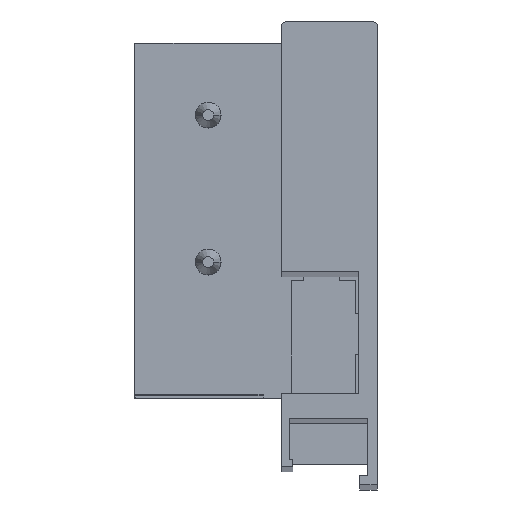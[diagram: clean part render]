
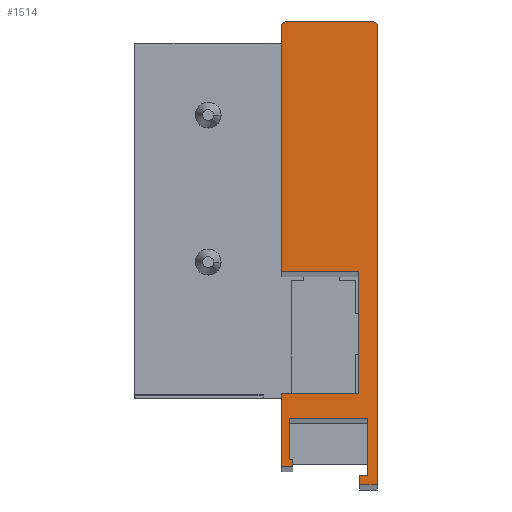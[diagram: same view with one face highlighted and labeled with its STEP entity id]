
A CAD part, top view. The second image highlights one B-rep face of the part: STEP entity #1514.
In plain terms, the highlighted planar face has unit normal (0, 0, 1).
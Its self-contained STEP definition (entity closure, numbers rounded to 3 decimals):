
#23 = VERTEX_POINT ( 'NONE', #1108 ) ;
#31 = EDGE_CURVE ( 'NONE', #1757, #1791, #373, .T. ) ;
#53 = CARTESIAN_POINT ( 'NONE',  ( 12.5, 33.5, 0. ) ) ;
#54 = EDGE_CURVE ( 'NONE', #1575, #315, #1630, .T. ) ;
#68 = LINE ( 'NONE', #800, #468 ) ;
#95 = LINE ( 'NONE', #453, #1387 ) ;
#109 = EDGE_CURVE ( 'NONE', #1692, #1575, #2073, .T. ) ;
#113 = VERTEX_POINT ( 'NONE', #1053 ) ;
#119 = CARTESIAN_POINT ( 'NONE',  ( 0.5, 33.5, 0. ) ) ;
#142 = EDGE_CURVE ( 'NONE', #23, #1094, #214, .T. ) ;
#143 = CARTESIAN_POINT ( 'NONE',  ( 12.5, 34., 0. ) ) ;
#201 = CARTESIAN_POINT ( 'NONE',  ( 10.5, 0., 0. ) ) ;
#203 = VERTEX_POINT ( 'NONE', #1418 ) ;
#209 = DIRECTION ( 'NONE',  ( 1., 0., 0. ) ) ;
#214 = LINE ( 'NONE', #1055, #1117 ) ;
#220 = DIRECTION ( 'NONE',  ( 0., -1., 0. ) ) ;
#249 = VERTEX_POINT ( 'NONE', #421 ) ;
#256 = VECTOR ( 'NONE', #417, 1000. ) ;
#283 = ORIENTED_EDGE ( 'NONE', *, *, #54, .T. ) ;
#298 = PLANE ( 'NONE',  #1493 ) ;
#302 = CARTESIAN_POINT ( 'NONE',  ( 10.6, -29., 0. ) ) ;
#308 = CARTESIAN_POINT ( 'NONE',  ( 13., 33.5, 0. ) ) ;
#311 = VERTEX_POINT ( 'NONE', #1443 ) ;
#315 = VERTEX_POINT ( 'NONE', #1107 ) ;
#373 = LINE ( 'NONE', #554, #1215 ) ;
#404 = VERTEX_POINT ( 'NONE', #1654 ) ;
#417 = DIRECTION ( 'NONE',  ( 0., 1., 0. ) ) ;
#421 = CARTESIAN_POINT ( 'NONE',  ( 0., -26.5, 0. ) ) ;
#439 = LINE ( 'NONE', #302, #2140 ) ;
#441 = VERTEX_POINT ( 'NONE', #1307 ) ;
#445 = LINE ( 'NONE', #1809, #891 ) ;
#453 = CARTESIAN_POINT ( 'NONE',  ( 13., -29., 0. ) ) ;
#464 = DIRECTION ( 'NONE',  ( 1., 0., 0. ) ) ;
#468 = VECTOR ( 'NONE', #464, 1000. ) ;
#489 = VERTEX_POINT ( 'NONE', #1601 ) ;
#515 = LINE ( 'NONE', #756, #903 ) ;
#521 = ORIENTED_EDGE ( 'NONE', *, *, #649, .T. ) ;
#524 = ORIENTED_EDGE ( 'NONE', *, *, #1246, .T. ) ;
#533 = VECTOR ( 'NONE', #220, 1000. ) ;
#544 = VECTOR ( 'NONE', #1448, 1000. ) ;
#554 = CARTESIAN_POINT ( 'NONE',  ( 0., 0., 0. ) ) ;
#588 = EDGE_CURVE ( 'NONE', #489, #311, #445, .T. ) ;
#604 = ORIENTED_EDGE ( 'NONE', *, *, #109, .T. ) ;
#609 = CARTESIAN_POINT ( 'NONE',  ( 1.5, -26.5, 0. ) ) ;
#648 = CARTESIAN_POINT ( 'NONE',  ( 10.6, -27.7, 0. ) ) ;
#649 = EDGE_CURVE ( 'NONE', #1094, #2086, #1648, .T. ) ;
#729 = EDGE_CURVE ( 'NONE', #315, #1757, #1024, .T. ) ;
#735 = VERTEX_POINT ( 'NONE', #1468 ) ;
#756 = CARTESIAN_POINT ( 'NONE',  ( 1., -19.969, 0. ) ) ;
#768 = DIRECTION ( 'NONE',  ( -1., 0., 0. ) ) ;
#795 = DIRECTION ( 'NONE',  ( 0., 0., 1. ) ) ;
#796 = DIRECTION ( 'NONE',  ( -1., 0., 0. ) ) ;
#800 = CARTESIAN_POINT ( 'NONE',  ( 11.7, -19.969, 0. ) ) ;
#851 = ORIENTED_EDGE ( 'NONE', *, *, #1422, .T. ) ;
#861 = CARTESIAN_POINT ( 'NONE',  ( 0., 0., 0. ) ) ;
#862 = VECTOR ( 'NONE', #1833, 1000. ) ;
#874 = DIRECTION ( 'NONE',  ( 1., 0., 0. ) ) ;
#878 = CARTESIAN_POINT ( 'NONE',  ( 11.7, -27.7, 0. ) ) ;
#891 = VECTOR ( 'NONE', #796, 1000. ) ;
#903 = VECTOR ( 'NONE', #1775, 1000. ) ;
#908 = ORIENTED_EDGE ( 'NONE', *, *, #1391, .T. ) ;
#989 = LINE ( 'NONE', #2087, #533 ) ;
#1010 = AXIS2_PLACEMENT_3D ( 'NONE', #1808, #795, #1971 ) ;
#1024 = CIRCLE ( 'NONE', #1010, 0.5 ) ;
#1029 = CARTESIAN_POINT ( 'NONE',  ( 0., 33.5, 0. ) ) ;
#1030 = ORIENTED_EDGE ( 'NONE', *, *, #1581, .T. ) ;
#1053 = CARTESIAN_POINT ( 'NONE',  ( 1.5, -25.5, 0. ) ) ;
#1055 = CARTESIAN_POINT ( 'NONE',  ( 11.7, -27.7, 0. ) ) ;
#1065 = FACE_OUTER_BOUND ( 'NONE', #1561, .T. ) ;
#1087 = EDGE_CURVE ( 'NONE', #1791, #735, #1131, .T. ) ;
#1094 = VERTEX_POINT ( 'NONE', #878 ) ;
#1107 = CARTESIAN_POINT ( 'NONE',  ( 0.5, 34., 0. ) ) ;
#1108 = CARTESIAN_POINT ( 'NONE',  ( 11.7, -19.969, 0. ) ) ;
#1117 = VECTOR ( 'NONE', #1230, 1000. ) ;
#1131 = LINE ( 'NONE', #201, #1536 ) ;
#1132 = ORIENTED_EDGE ( 'NONE', *, *, #1551, .T. ) ;
#1143 = CARTESIAN_POINT ( 'NONE',  ( 1., -25.5, 0. ) ) ;
#1172 = VECTOR ( 'NONE', #1540, 1000. ) ;
#1178 = VECTOR ( 'NONE', #768, 1000. ) ;
#1185 = VECTOR ( 'NONE', #1666, 1000. ) ;
#1215 = VECTOR ( 'NONE', #1678, 1000. ) ;
#1217 = DIRECTION ( 'NONE',  ( 0., 0., 1. ) ) ;
#1225 = LINE ( 'NONE', #1143, #1178 ) ;
#1230 = DIRECTION ( 'NONE',  ( 0., -1., 0. ) ) ;
#1246 = EDGE_CURVE ( 'NONE', #1939, #113, #1670, .T. ) ;
#1248 = ORIENTED_EDGE ( 'NONE', *, *, #1352, .T. ) ;
#1253 = VECTOR ( 'NONE', #1497, 1000. ) ;
#1307 = CARTESIAN_POINT ( 'NONE',  ( 13., -29., 0. ) ) ;
#1311 = LINE ( 'NONE', #308, #862 ) ;
#1314 = EDGE_CURVE ( 'NONE', #249, #1939, #1892, .T. ) ;
#1315 = CARTESIAN_POINT ( 'NONE',  ( 10.5, -16.5, 0. ) ) ;
#1352 = EDGE_CURVE ( 'NONE', #404, #441, #95, .T. ) ;
#1362 = LINE ( 'NONE', #1315, #1253 ) ;
#1368 = ORIENTED_EDGE ( 'NONE', *, *, #2153, .T. ) ;
#1371 = ORIENTED_EDGE ( 'NONE', *, *, #588, .T. ) ;
#1378 = CARTESIAN_POINT ( 'NONE',  ( 0.5, 34., 0. ) ) ;
#1387 = VECTOR ( 'NONE', #1651, 1000. ) ;
#1391 = EDGE_CURVE ( 'NONE', #2086, #404, #439, .T. ) ;
#1417 = ORIENTED_EDGE ( 'NONE', *, *, #31, .T. ) ;
#1418 = CARTESIAN_POINT ( 'NONE',  ( 1., -19.969, 0. ) ) ;
#1422 = EDGE_CURVE ( 'NONE', #113, #2082, #1225, .T. ) ;
#1443 = CARTESIAN_POINT ( 'NONE',  ( 0., -16.5, 0. ) ) ;
#1448 = DIRECTION ( 'NONE',  ( 1., 0., 0. ) ) ;
#1460 = CARTESIAN_POINT ( 'NONE',  ( 10.6, -27.7, 0. ) ) ;
#1467 = DIRECTION ( 'NONE',  ( 0., 0., -1. ) ) ;
#1468 = CARTESIAN_POINT ( 'NONE',  ( 10.5, 0., 0. ) ) ;
#1477 = DIRECTION ( 'NONE',  ( -1., 0., 0. ) ) ;
#1493 = AXIS2_PLACEMENT_3D ( 'NONE', #119, #1467, #1477 ) ;
#1497 = DIRECTION ( 'NONE',  ( 0., -1., 0. ) ) ;
#1514 = ADVANCED_FACE ( 'NONE', ( #1065 ), #298, .F. ) ;
#1532 = EDGE_CURVE ( 'NONE', #203, #23, #68, .T. ) ;
#1536 = VECTOR ( 'NONE', #874, 1000. ) ;
#1540 = DIRECTION ( 'NONE',  ( -1., 0., 0. ) ) ;
#1548 = ORIENTED_EDGE ( 'NONE', *, *, #1532, .T. ) ;
#1551 = EDGE_CURVE ( 'NONE', #441, #1692, #1311, .T. ) ;
#1557 = AXIS2_PLACEMENT_3D ( 'NONE', #53, #1217, #209 ) ;
#1561 = EDGE_LOOP ( 'NONE', ( #1248, #1132, #604, #283, #2114, #1417, #1697, #1030, #1371, #1368, #2135, #524, #851, #1631, #1548, #2034, #521, #908 ) ) ;
#1575 = VERTEX_POINT ( 'NONE', #143 ) ;
#1581 = EDGE_CURVE ( 'NONE', #735, #489, #1362, .T. ) ;
#1601 = CARTESIAN_POINT ( 'NONE',  ( 10.5, -16.5, 0. ) ) ;
#1627 = CARTESIAN_POINT ( 'NONE',  ( 1., -25.5, 0. ) ) ;
#1630 = LINE ( 'NONE', #1378, #1172 ) ;
#1631 = ORIENTED_EDGE ( 'NONE', *, *, #1973, .T. ) ;
#1648 = LINE ( 'NONE', #648, #1185 ) ;
#1651 = DIRECTION ( 'NONE',  ( 1., 0., 0. ) ) ;
#1654 = CARTESIAN_POINT ( 'NONE',  ( 10.6, -29., 0. ) ) ;
#1655 = DIRECTION ( 'NONE',  ( 0., -1., 0. ) ) ;
#1666 = DIRECTION ( 'NONE',  ( -1., 0., 0. ) ) ;
#1670 = LINE ( 'NONE', #1929, #256 ) ;
#1678 = DIRECTION ( 'NONE',  ( 0., -1., 0. ) ) ;
#1692 = VERTEX_POINT ( 'NONE', #1701 ) ;
#1697 = ORIENTED_EDGE ( 'NONE', *, *, #1087, .T. ) ;
#1701 = CARTESIAN_POINT ( 'NONE',  ( 13., 33.5, 0. ) ) ;
#1757 = VERTEX_POINT ( 'NONE', #1029 ) ;
#1775 = DIRECTION ( 'NONE',  ( 0., 1., 0. ) ) ;
#1791 = VERTEX_POINT ( 'NONE', #861 ) ;
#1808 = CARTESIAN_POINT ( 'NONE',  ( 0.5, 33.5, 0. ) ) ;
#1809 = CARTESIAN_POINT ( 'NONE',  ( 0., -16.5, 0. ) ) ;
#1833 = DIRECTION ( 'NONE',  ( 0., 1., 0. ) ) ;
#1892 = LINE ( 'NONE', #609, #544 ) ;
#1929 = CARTESIAN_POINT ( 'NONE',  ( 1.5, -25.5, 0. ) ) ;
#1939 = VERTEX_POINT ( 'NONE', #2097 ) ;
#1971 = DIRECTION ( 'NONE',  ( -1., 0., 0. ) ) ;
#1973 = EDGE_CURVE ( 'NONE', #2082, #203, #515, .T. ) ;
#2034 = ORIENTED_EDGE ( 'NONE', *, *, #142, .T. ) ;
#2073 = CIRCLE ( 'NONE', #1557, 0.5 ) ;
#2082 = VERTEX_POINT ( 'NONE', #1627 ) ;
#2086 = VERTEX_POINT ( 'NONE', #1460 ) ;
#2087 = CARTESIAN_POINT ( 'NONE',  ( 0., -26.5, 0. ) ) ;
#2097 = CARTESIAN_POINT ( 'NONE',  ( 1.5, -26.5, 0. ) ) ;
#2114 = ORIENTED_EDGE ( 'NONE', *, *, #729, .T. ) ;
#2135 = ORIENTED_EDGE ( 'NONE', *, *, #1314, .T. ) ;
#2140 = VECTOR ( 'NONE', #1655, 1000. ) ;
#2153 = EDGE_CURVE ( 'NONE', #311, #249, #989, .T. ) ;
